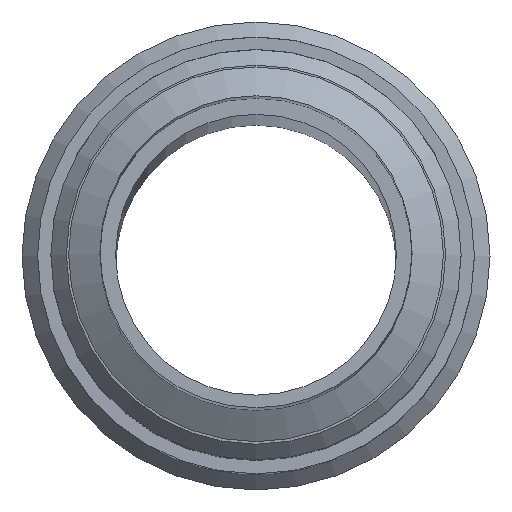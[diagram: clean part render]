
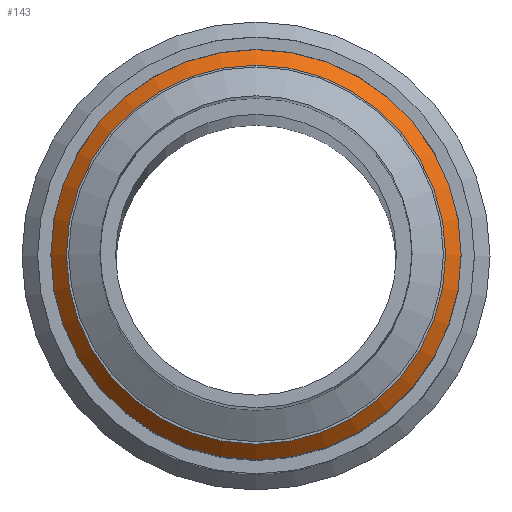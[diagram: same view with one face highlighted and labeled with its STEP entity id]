
A CAD part, top view. The second image highlights one B-rep face of the part: STEP entity #143.
In plain terms, the highlighted conical face has half-angle 45 degrees and reference radius 6.5 mm.
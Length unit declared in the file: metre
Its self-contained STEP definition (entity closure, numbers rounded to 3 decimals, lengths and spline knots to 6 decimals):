
#143=ADVANCED_FACE('',(#304,#305),#306,.T.);
#165=EDGE_CURVE('',#338,#338,#339,.T.);
#185=EDGE_CURVE('',#365,#365,#366,.T.);
#304=FACE_BOUND('',#474,.T.);
#305=FACE_OUTER_BOUND('',#475,.T.);
#306=CONICAL_SURFACE('',#476,0.0065,0.785);
#338=VERTEX_POINT('',#521);
#339=CIRCLE('',#522,0.006575);
#365=VERTEX_POINT('',#563);
#366=CIRCLE('',#564,0.006075);
#474=EDGE_LOOP('',(#722));
#475=EDGE_LOOP('',(#723));
#476=AXIS2_PLACEMENT_3D('',#724,#725,#726);
#521=CARTESIAN_POINT('',(-0.006575,0.,0.0235));
#522=AXIS2_PLACEMENT_3D('',#753,#754,#755);
#563=CARTESIAN_POINT('',(0.006075,0.,0.024));
#564=AXIS2_PLACEMENT_3D('',#773,#774,#775);
#722=ORIENTED_EDGE('',*,*,#185,.F.);
#723=ORIENTED_EDGE('',*,*,#165,.F.);
#724=CARTESIAN_POINT('',(0.0,0.,0.023575));
#725=DIRECTION('',(-0.0,0.0,-1.0));
#726=DIRECTION('',(-1.0,0.0,0.0));
#753=CARTESIAN_POINT('',(0.0,0.,0.0235));
#754=DIRECTION('',(0.0,0.0,-1.0));
#755=DIRECTION('',(-1.0,0.0,0.0));
#773=CARTESIAN_POINT('',(0.0,0.,0.024));
#774=DIRECTION('',(0.0,0.0,1.0));
#775=DIRECTION('',(1.0,0.0,-0.0));
